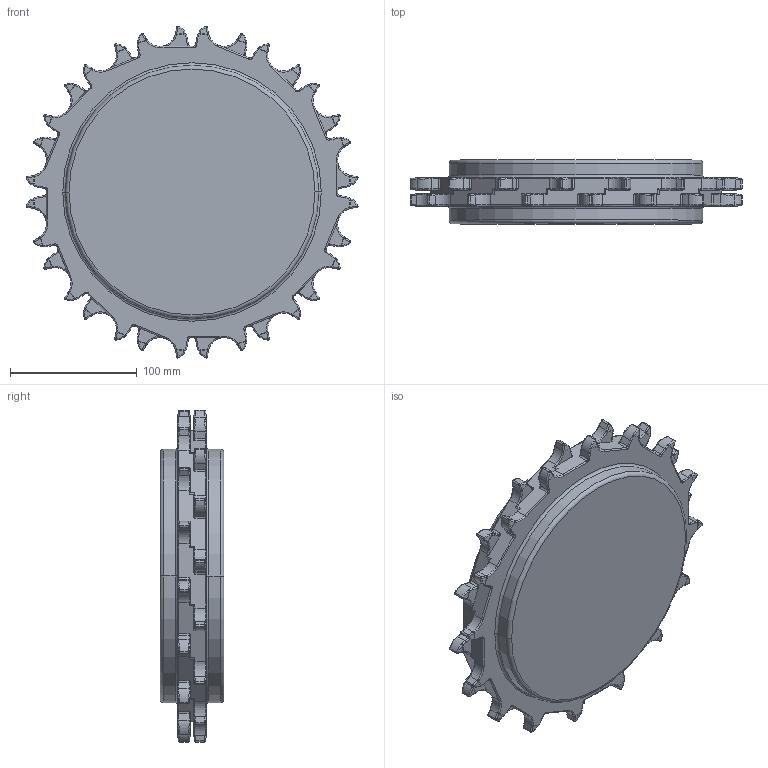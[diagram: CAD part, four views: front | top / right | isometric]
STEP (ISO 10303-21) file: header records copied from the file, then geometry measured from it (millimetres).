
FILE_DESCRIPTION((''),'2;1');
FILE_NAME('543Z16','2012-05-25T',('mth'),(''),'PRO/ENGINEER BY PARAMETRIC TECHNOLOGY CORPORATION, 2012060','PRO/ENGINEER BY PARAMETRIC TECHNOLOGY CORPORATION, 2012060','');
FILE_SCHEMA(('AUTOMOTIVE_DESIGN { 1 0 10303 214 1 1 1 1 }'));
Products named in the file (1): 543Z16
Bounding box: 262 x 50.4 x 262 mm (x, y, z)
Volume: 1873667.8 mm3; surface area: 130370.7 mm2
Topology: 1 solids, 1 shells, 1385 faces, 3360 edges, 1992 vertices
Faces by surface type: plane 397, bspline 320, cylinder 276, torus 264, cone 64, sphere 64
Entity records: 62490 total; most frequent: CARTESIAN_POINT 21483, ORIENTED_EDGE 6720, DIRECTION 6026, PRESENTATION_STYLE_ASSIGNMENT 3371, STYLED_ITEM 3361, CURVE_STYLE 3360, EDGE_CURVE 3360, AXIS2_PLACEMENT_3D 2337
